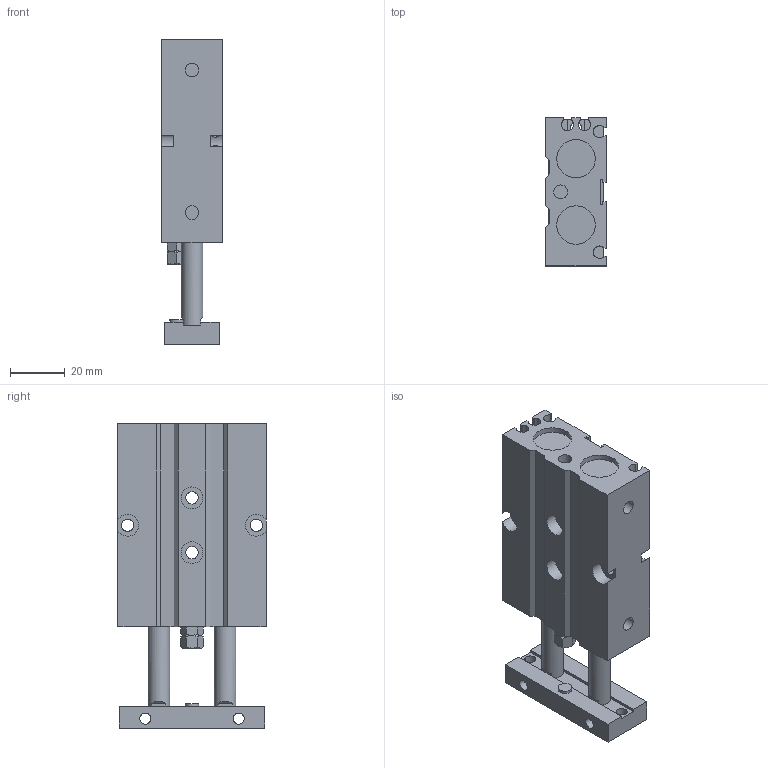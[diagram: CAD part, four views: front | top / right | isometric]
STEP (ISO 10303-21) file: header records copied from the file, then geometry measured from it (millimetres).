
FILE_DESCRIPTION((''),'2;1');
FILE_NAME('I:\3D電子目錄\氣缸\TD\TD16\TD16\TD16x20.stp','2007-08-06T09:39:56',('Administrator'),(''),'Autodesk Inventor 2008','Autodesk Inventor 2008','');
FILE_SCHEMA(('AUTOMOTIVE_DESIGN { 1 0 10303 214 1 1 1 1 }'));
Length unit declared in the file: millimetre
Products named in the file (1): TD16X20
Bounding box: 22 x 54 x 111 mm (x, y, z)
Volume: 87058 mm3; surface area: 24670.9 mm2
Topology: 1 solids, 3 shells, 175 faces, 459 edges, 300 vertices
Faces by surface type: plane 114, cylinder 40, bspline 12, cone 7, torus 2
Full cylindrical faces by diameter (mm): 4 x4, 4.5 x4, 5 x6, 6 x2, 7 x2, 8 x4, 14 x4
Entity records: 5739 total; most frequent: CARTESIAN_POINT 1615, ORIENTED_EDGE 816, DIRECTION 804, EDGE_CURVE 408, VERTEX_POINT 288, VECTOR 272, LINE 272, AXIS2_PLACEMENT_3D 266
